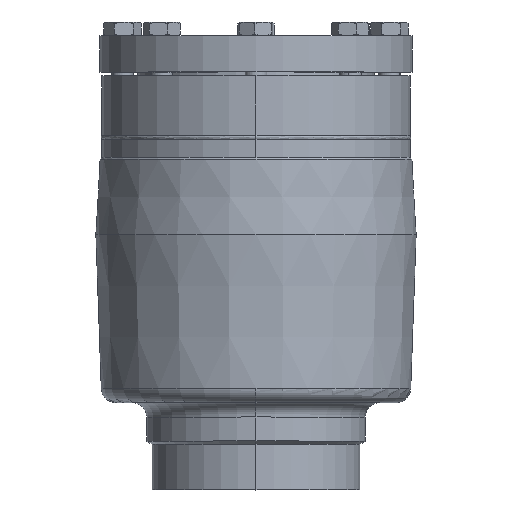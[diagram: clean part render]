
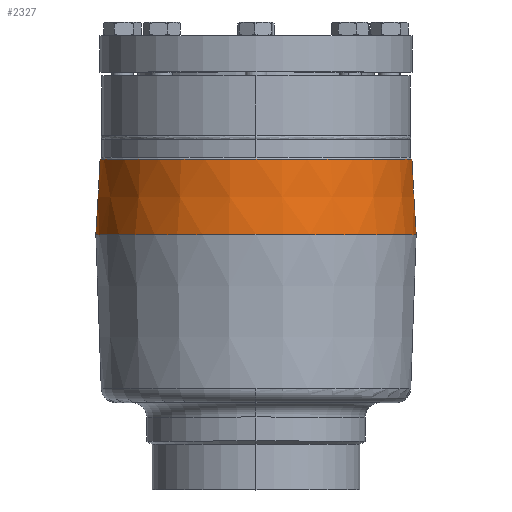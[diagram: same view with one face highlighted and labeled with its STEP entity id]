
A CAD part, top view. The second image highlights one B-rep face of the part: STEP entity #2327.
In plain terms, the highlighted conical face has half-angle 3 degrees and reference radius 86 mm.
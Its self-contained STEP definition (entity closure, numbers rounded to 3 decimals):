
#146 = CARTESIAN_POINT ( 'NONE',  ( 0., -11.055, 86.055 ) ) ;
#165 = B_SPLINE_CURVE_WITH_KNOTS ( 'NONE', 3,
 ( #166, #167, #168, #169 ),
 .UNSPECIFIED., .F., .F.,
 ( 4, 4 ),
 ( 0., 0. ),
 .UNSPECIFIED. ) ;
#166 = CARTESIAN_POINT ( 'NONE',  ( 59.779, -52.533, -64.891 ) ) ;
#167 = CARTESIAN_POINT ( 'NONE',  ( 59.715, -52.533, -64.95 ) ) ;
#168 = CARTESIAN_POINT ( 'NONE',  ( 59.653, -52.547, -65.008 ) ) ;
#169 = CARTESIAN_POINT ( 'NONE',  ( 59.595, -52.581, -65.063 ) ) ;
#246 = CARTESIAN_POINT ( 'NONE',  ( -59.779, -52.533, -64.891 ) ) ;
#499 = ORIENTED_EDGE ( 'NONE', *, *, #9660, .T. ) ;
#1095 = EDGE_LOOP ( 'NONE', ( #499, #5810, #14057, #6065, #5019, #3431, #12102 ) ) ;
#2327 = ADVANCED_FACE ( 'NONE', ( #6835 ), #6836, .T. ) ;
#2703 = B_SPLINE_CURVE_WITH_KNOTS ( 'NONE', 3,
 ( #2704, #2705, #2706, #2707 ),
 .UNSPECIFIED., .F., .F.,
 ( 4, 4 ),
 ( 0., 0. ),
 .UNSPECIFIED. ) ;
#2704 = CARTESIAN_POINT ( 'NONE',  ( -59.595, -52.581, -65.063 ) ) ;
#2705 = CARTESIAN_POINT ( 'NONE',  ( -59.653, -52.547, -65.008 ) ) ;
#2706 = CARTESIAN_POINT ( 'NONE',  ( -59.715, -52.533, -64.95 ) ) ;
#2707 = CARTESIAN_POINT ( 'NONE',  ( -59.779, -52.533, -64.891 ) ) ;
#2744 = CARTESIAN_POINT ( 'NONE',  ( -25.373, -11.055, -82.23 ) ) ;
#3431 = ORIENTED_EDGE ( 'NONE', *, *, #12279, .T. ) ;
#3906 = VERTEX_POINT ( 'NONE', #11316 ) ;
#4543 = B_SPLINE_CURVE_WITH_KNOTS ( 'NONE', 3,
 ( #4544, #4545, #4546, #4547, #4548, #4549, #4550, #4551, #4552, #4553, #4554, #4555, #4556, #4557, #4558, #4559, #4560, #4561, #4562, #4563, #4564, #4565, #4566, #4567, #4568, #4569 ),
 .UNSPECIFIED., .F., .F.,
 ( 4, 2, 2, 2, 2, 2, 2, 2, 2, 2, 2, 2, 4 ),
 ( 0., 0.004, 0.007, 0.015, 0.022, 0.029, 0.033, 0.036, 0.044, 0.051, 0.053, 0.055, 0.058 ),
 .UNSPECIFIED. ) ;
#4544 = CARTESIAN_POINT ( 'NONE',  ( 59.595, -52.581, -65.063 ) ) ;
#4545 = CARTESIAN_POINT ( 'NONE',  ( 59.254, -51.434, -65.294 ) ) ;
#4546 = CARTESIAN_POINT ( 'NONE',  ( 58.887, -50.3, -65.546 ) ) ;
#4547 = CARTESIAN_POINT ( 'NONE',  ( 58.1, -48.06, -66.088 ) ) ;
#4548 = CARTESIAN_POINT ( 'NONE',  ( 57.68, -46.952, -66.379 ) ) ;
#4549 = CARTESIAN_POINT ( 'NONE',  ( 56.349, -43.685, -67.295 ) ) ;
#4550 = CARTESIAN_POINT ( 'NONE',  ( 55.369, -41.584, -67.966 ) ) ;
#4551 = CARTESIAN_POINT ( 'NONE',  ( 53.229, -37.518, -69.386 ) ) ;
#4552 = CARTESIAN_POINT ( 'NONE',  ( 52.068, -35.554, -70.137 ) ) ;
#4553 = CARTESIAN_POINT ( 'NONE',  ( 49.562, -31.753, -71.688 ) ) ;
#4554 = CARTESIAN_POINT ( 'NONE',  ( 48.217, -29.916, -72.488 ) ) ;
#4555 = CARTESIAN_POINT ( 'NONE',  ( 46.05, -27.255, -73.705 ) ) ;
#4556 = CARTESIAN_POINT ( 'NONE',  ( 45.302, -26.383, -74.114 ) ) ;
#4557 = CARTESIAN_POINT ( 'NONE',  ( 43.77, -24.688, -74.926 ) ) ;
#4558 = CARTESIAN_POINT ( 'NONE',  ( 42.984, -23.863, -75.33 ) ) ;
#4559 = CARTESIAN_POINT ( 'NONE',  ( 40.565, -21.452, -76.533 ) ) ;
#4560 = CARTESIAN_POINT ( 'NONE',  ( 38.872, -19.931, -77.321 ) ) ;
#4561 = CARTESIAN_POINT ( 'NONE',  ( 35.31, -17.065, -78.846 ) ) ;
#4562 = CARTESIAN_POINT ( 'NONE',  ( 33.442, -15.72, -79.584 ) ) ;
#4563 = CARTESIAN_POINT ( 'NONE',  ( 30.985, -14.155, -80.459 ) ) ;
#4564 = CARTESIAN_POINT ( 'NONE',  ( 30.487, -13.847, -80.632 ) ) ;
#4565 = CARTESIAN_POINT ( 'NONE',  ( 29.485, -13.249, -80.971 ) ) ;
#4566 = CARTESIAN_POINT ( 'NONE',  ( 28.98, -12.957, -81.136 ) ) ;
#4567 = CARTESIAN_POINT ( 'NONE',  ( 27.454, -12.104, -81.623 ) ) ;
#4568 = CARTESIAN_POINT ( 'NONE',  ( 26.422, -11.564, -81.934 ) ) ;
#4569 = CARTESIAN_POINT ( 'NONE',  ( 25.373, -11.055, -82.23 ) ) ;
#4674 = EDGE_CURVE ( 'NONE', #5501, #3906, #12370, .T. ) ;
#5019 = ORIENTED_EDGE ( 'NONE', *, *, #4674, .T. ) ;
#5501 = VERTEX_POINT ( 'NONE', #2744 ) ;
#5653 = EDGE_CURVE ( 'NONE', #9243, #12052, #4543, .T. ) ;
#5728 = EDGE_CURVE ( 'NONE', #12130, #5501, #6028, .T. ) ;
#5810 = ORIENTED_EDGE ( 'NONE', *, *, #5653, .T. ) ;
#6028 = CIRCLE ( 'NONE', #6029, 86.055 ) ;
#6029 = AXIS2_PLACEMENT_3D ( 'NONE', #6030, #6031, #6032 ) ;
#6030 = CARTESIAN_POINT ( 'NONE',  ( 0., -11.055, 0. ) ) ;
#6031 = DIRECTION ( 'NONE',  ( 0., -1., 0. ) ) ;
#6032 = DIRECTION ( 'NONE',  ( 0., 0., 1. ) ) ;
#6065 = ORIENTED_EDGE ( 'NONE', *, *, #5728, .T. ) ;
#6835 = FACE_OUTER_BOUND ( 'NONE', #1095, .T. ) ;
#6836 = CONICAL_SURFACE ( 'NONE', #6837, 86., 0.052 ) ;
#6837 = AXIS2_PLACEMENT_3D ( 'NONE', #6838, #6839, #6840 ) ;
#6838 = CARTESIAN_POINT ( 'NONE',  ( 0., -10., 0. ) ) ;
#6839 = DIRECTION ( 'NONE',  ( 0., -1., 0. ) ) ;
#6840 = DIRECTION ( 'NONE',  ( 0., 0., -1. ) ) ;
#9243 = VERTEX_POINT ( 'NONE', #12612 ) ;
#9452 = VERTEX_POINT ( 'NONE', #12784 ) ;
#9660 = EDGE_CURVE ( 'NONE', #9452, #9243, #165, .T. ) ;
#11316 = CARTESIAN_POINT ( 'NONE',  ( -59.595, -52.581, -65.063 ) ) ;
#11640 = CARTESIAN_POINT ( 'NONE',  ( 25.373, -11.055, -82.23 ) ) ;
#12052 = VERTEX_POINT ( 'NONE', #11640 ) ;
#12069 = EDGE_CURVE ( 'NONE', #12052, #12130, #12157, .T. ) ;
#12079 = EDGE_CURVE ( 'NONE', #9452, #12140, #12223, .T. ) ;
#12102 = ORIENTED_EDGE ( 'NONE', *, *, #12079, .F. ) ;
#12130 = VERTEX_POINT ( 'NONE', #146 ) ;
#12140 = VERTEX_POINT ( 'NONE', #246 ) ;
#12157 = CIRCLE ( 'NONE', #12158, 86.055 ) ;
#12158 = AXIS2_PLACEMENT_3D ( 'NONE', #12159, #12160, #12161 ) ;
#12159 = CARTESIAN_POINT ( 'NONE',  ( 0., -11.055, 0. ) ) ;
#12160 = DIRECTION ( 'NONE',  ( 0., -1., 0. ) ) ;
#12161 = DIRECTION ( 'NONE',  ( 0., 0., 1. ) ) ;
#12223 = CIRCLE ( 'NONE', #12224, 88.229 ) ;
#12224 = AXIS2_PLACEMENT_3D ( 'NONE', #12225, #12226, #12227 ) ;
#12225 = CARTESIAN_POINT ( 'NONE',  ( 0., -52.533, 0. ) ) ;
#12226 = DIRECTION ( 'NONE',  ( 0., -1., 0. ) ) ;
#12227 = DIRECTION ( 'NONE',  ( 0., 0., 1. ) ) ;
#12279 = EDGE_CURVE ( 'NONE', #3906, #12140, #2703, .T. ) ;
#12370 = B_SPLINE_CURVE_WITH_KNOTS ( 'NONE', 3,
 ( #12371, #12372, #12373, #12374, #12375, #12376, #12377, #12378, #12379, #12380, #12381, #12382, #12383, #12387, #12388, #12389, #12390, #12391, #12392, #12393, #12394, #12395, #12396, #12397 ),
 .UNSPECIFIED., .F., .F.,
 ( 4, 2, 2, 2, 2, 2, 2, 2, 2, 2, 2, 4 ),
 ( 0.112, 0.119, 0.127, 0.128, 0.13, 0.134, 0.141, 0.149, 0.152, 0.156, 0.163, 0.171 ),
 .UNSPECIFIED. ) ;
#12371 = CARTESIAN_POINT ( 'NONE',  ( -25.373, -11.055, -82.23 ) ) ;
#12372 = CARTESIAN_POINT ( 'NONE',  ( -27.47, -12.073, -81.639 ) ) ;
#12373 = CARTESIAN_POINT ( 'NONE',  ( -29.484, -13.202, -80.993 ) ) ;
#12374 = CARTESIAN_POINT ( 'NONE',  ( -33.363, -15.666, -79.613 ) ) ;
#12375 = CARTESIAN_POINT ( 'NONE',  ( -35.228, -17.003, -78.88 ) ) ;
#12376 = CARTESIAN_POINT ( 'NONE',  ( -37.47, -18.802, -77.922 ) ) ;
#12377 = CARTESIAN_POINT ( 'NONE',  ( -37.914, -19.168, -77.728 ) ) ;
#12378 = CARTESIAN_POINT ( 'NONE',  ( -38.793, -19.914, -77.337 ) ) ;
#12379 = CARTESIAN_POINT ( 'NONE',  ( -39.228, -20.293, -77.139 ) ) ;
#12380 = CARTESIAN_POINT ( 'NONE',  ( -40.515, -21.445, -76.544 ) ) ;
#12381 = CARTESIAN_POINT ( 'NONE',  ( -41.347, -22.232, -76.144 ) ) ;
#12382 = CARTESIAN_POINT ( 'NONE',  ( -43.772, -24.647, -74.939 ) ) ;
#12383 = CARTESIAN_POINT ( 'NONE',  ( -45.294, -26.33, -74.129 ) ) ;
#12387 = CARTESIAN_POINT ( 'NONE',  ( -48.161, -29.844, -72.52 ) ) ;
#12388 = CARTESIAN_POINT ( 'NONE',  ( -49.507, -31.674, -71.721 ) ) ;
#12389 = CARTESIAN_POINT ( 'NONE',  ( -51.398, -34.534, -70.552 ) ) ;
#12390 = CARTESIAN_POINT ( 'NONE',  ( -52.007, -35.507, -70.168 ) ) ;
#12391 = CARTESIAN_POINT ( 'NONE',  ( -53.182, -37.493, -69.412 ) ) ;
#12392 = CARTESIAN_POINT ( 'NONE',  ( -53.75, -38.509, -69.04 ) ) ;
#12393 = CARTESIAN_POINT ( 'NONE',  ( -55.376, -41.595, -67.961 ) ) ;
#12394 = CARTESIAN_POINT ( 'NONE',  ( -56.359, -43.707, -67.289 ) ) ;
#12395 = CARTESIAN_POINT ( 'NONE',  ( -58.127, -48.051, -66.071 ) ) ;
#12396 = CARTESIAN_POINT ( 'NONE',  ( -58.913, -50.283, -65.525 ) ) ;
#12397 = CARTESIAN_POINT ( 'NONE',  ( -59.595, -52.581, -65.063 ) ) ;
#12612 = CARTESIAN_POINT ( 'NONE',  ( 59.595, -52.581, -65.063 ) ) ;
#12784 = CARTESIAN_POINT ( 'NONE',  ( 59.779, -52.533, -64.891 ) ) ;
#14057 = ORIENTED_EDGE ( 'NONE', *, *, #12069, .T. ) ;
